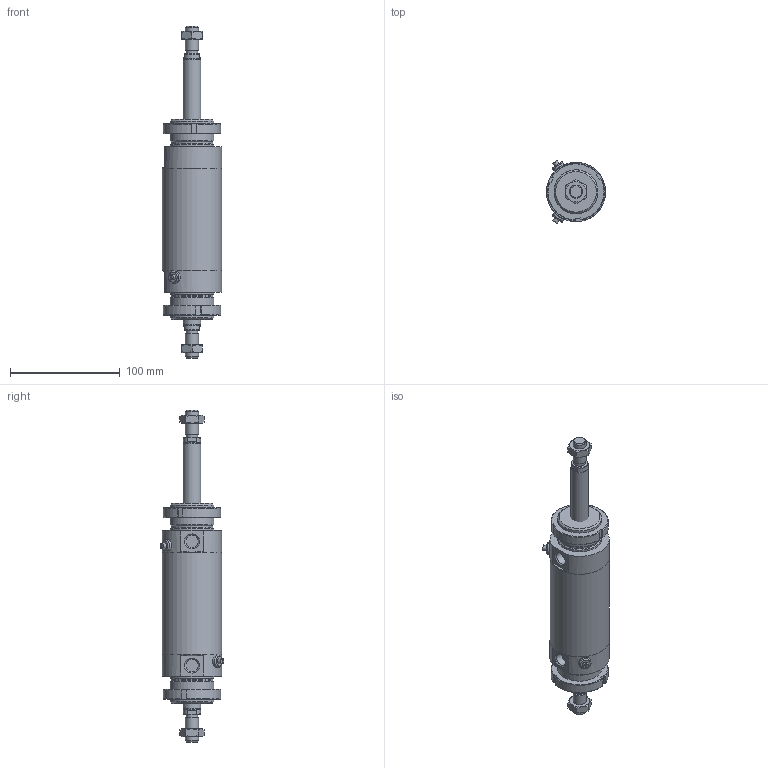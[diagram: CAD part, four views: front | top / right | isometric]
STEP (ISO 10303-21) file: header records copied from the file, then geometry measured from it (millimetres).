
FILE_DESCRIPTION(/* description */ (''),/* implementation_level */ '2;1');
FILE_NAME(/* name */ 'I:\Area Tecnica\Documenti\A-Manieri\_Inventor\12X\12X#S_###_####_#_#\12XDS_050_0050_#_#.stp',/* time_stamp */ '2015-05-13T08:20:18+02:00',/* author */ ('maniean1'),/* organization */ ('Pneumax S.p.A.'),/* preprocessor_version */ 'ST-DEVELOPER v15.2',/* originating_system */ 'Autodesk Inventor 2014',/* authorisation */ '');
FILE_SCHEMA (('AUTOMOTIVE_DESIGN { 1 0 10303 214 3 1 1 }'));
Length unit declared in the file: millimetre
Products named in the file (6): C1250_619-0050; 12X50_606; SP12X50_0050; 12X_50_11; G12X_050_05; 12XDS_050_0050_#_#
Bounding box: 54 x 57.75 x 302 mm (x, y, z)
Volume: 315494.5 mm3; surface area: 90722.4 mm2
Topology: 8 solids, 8 shells, 151 faces, 345 edges, 222 vertices
Faces by surface type: plane 78, cylinder 37, cone 34, torus 2
Full cylindrical faces by diameter (mm): 5 x2, 10.2 x2, 11 x2, 11.4 x2, 12 x4, 14 x2, 15.6 x2, 16 x2, 38.2 x2, 40 x6, 50 x2, 54 x3
Entity records: 2556 total; most frequent: CARTESIAN_POINT 505, DIRECTION 428, ORIENTED_EDGE 342, AXIS2_PLACEMENT_3D 182, EDGE_CURVE 171, EDGE_LOOP 144, VERTEX_POINT 129, ADVANCED_FACE 94
